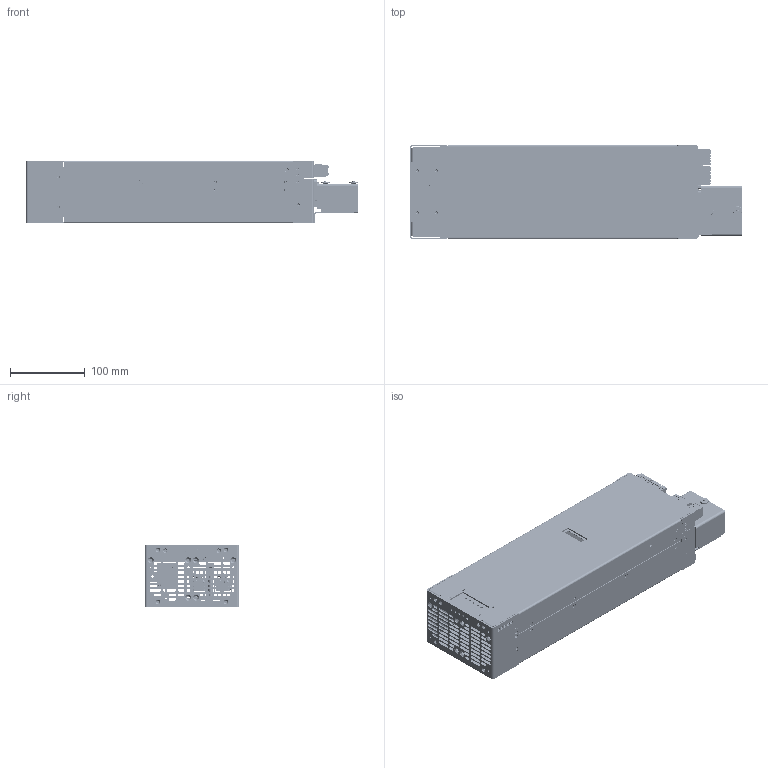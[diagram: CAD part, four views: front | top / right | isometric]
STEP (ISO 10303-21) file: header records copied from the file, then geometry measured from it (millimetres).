
FILE_DESCRIPTION(/* description */ ('PSU CPS-i3000 - CPS-i2000','CAx-IF Rec.Pracs.---Representation and Presentation of Product Manufacturing Information (PMI)---4.0---2014-10-13'),/* implementation_level */ '2;1');
FILE_NAME(/* name */ 'G:\Alle CAD Daten\CAMTEC_2020_Pack and Go\PSU CPS-i3000 - CPS-i2000\PSU.stp',/* time_stamp */ '2020-09-20T23:00:32+02:00',/* author */ ('rryba'),/* organization */ (''),/* preprocessor_version */ 'ST-DEVELOPER v18.1',/* originating_system */ 'Autodesk Inventor 2021',/* authorisation */ '');
FILE_SCHEMA (('AP242_MANAGED_MODEL_BASED_3D_ENGINEERING_MIM_LF { 1 0 10303 442 1 1 4 }'));
Products named in the file (70): PSU; 2031049004; 2021053003; 2021054005; 2021055003; 2051037002; 2051038001; 2011059005; 2011060004; 2051033003; 2051035002; 2061083001; 2061084001; 3011127001KZ; 2530386; 2530165; Abstandrohr; Abstandrohr- Gewindebolzen; Abstandrohr- Mutter; Analog I_O; 2051054004; Analog PCB; 1277320000; 1277330000; 1277340000; Digital I_O; 2051078001; 2051055001; Digital PCB; 1597360000; 1605070000; 74990101212_rev1; Insulator_3; Insulator_2; Shielding_2; LED; LED_1; 1277290000; 61400416121_rev1; Insulator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
Assembly tree (148 placements, depth 4):
  PSU
    2031049004
    2021053003
    2021054005
    2021055003
    2051037002
    2051038001
    2011059005
    2011060004
    2051033003
    2051035002  x2
    2061083001
    2061084001
    3011127001KZ
    2530386  x2
    2530165  x2
      Abstandrohr
      Abstandrohr- Gewindebolzen
      Abstandrohr- Mutter
    Analog I_O
      2051054004
      2051055001  x2
      2530278  x4
      Analog PCB
      1277290000
      1277320000
      1277330000
      1277340000
      ISO 7045 - M2,5 x 6 - 4.8 - H  x2
      DIN 433 - 2,7  x2
    Digital I_O
      2051078001
      2051055001  x2
      2530278  x4
      Digital PCB
      1597360000
      1605070000
      74990101212_rev1
        Insulator_3
        Insulator_2
        Shielding_2
        LED
        LED_1
      1277290000
      61400416121_rev1
        Insulator
        shielding
        Pin_2  x2
        Pin  x2
      DTS09SYC2M64ZM3
        N00402_BG
        R+B00067_BG  x5
        R+B00066_BG  x4
        R+B00142_BG
        R+B00137_BG
        N00573_BG
        R+B00306_BG  x2
        R+B00104_female_BG  x2
      1727840000
      ISO 7045 - M2,5 x 6 - 4.8 - H  x2
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Bounding box: 444 x 126.4 x 84.01 mm (x, y, z)
Volume: 685770.1 mm3; surface area: 780258.3 mm2
Topology: 232 solids, 232 shells, 11099 faces, 33561 edges, 26786 vertices
Faces by surface type: plane 7738, cylinder 2141, cone 796, torus 305, bspline 103, sphere 16
Full cylindrical faces by diameter (mm): 0.242 x2, 0.281 x2, 0.6 x9, 0.9 x18, 1 x9, 1.4 x58, 1.59 x4, 1.6 x27, 1.7 x9, 1.92 x9, 1.96 x27, 2.013 x20, 2.156 x2, 2.161 x4, 2.256 x4, 2.3 x13, 2.459 x63, 2.5 x12, 2.55 x4, 2.693 x36, 2.7 x4, 2.729 x2, 2.8 x9, 2.95 x4, 3 x48, 3.2 x8, 3.242 x33, 3.3 x2, 3.4 x54, 3.5 x5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
Entity records: 265649 total; most frequent: CARTESIAN_POINT 53362, DIRECTION 42017, ORIENTED_EDGE 41970, EDGE_CURVE 20985, LINE 16549, VECTOR 16549, VERTEX_POINT 13724, AXIS2_PLACEMENT_3D 12734
